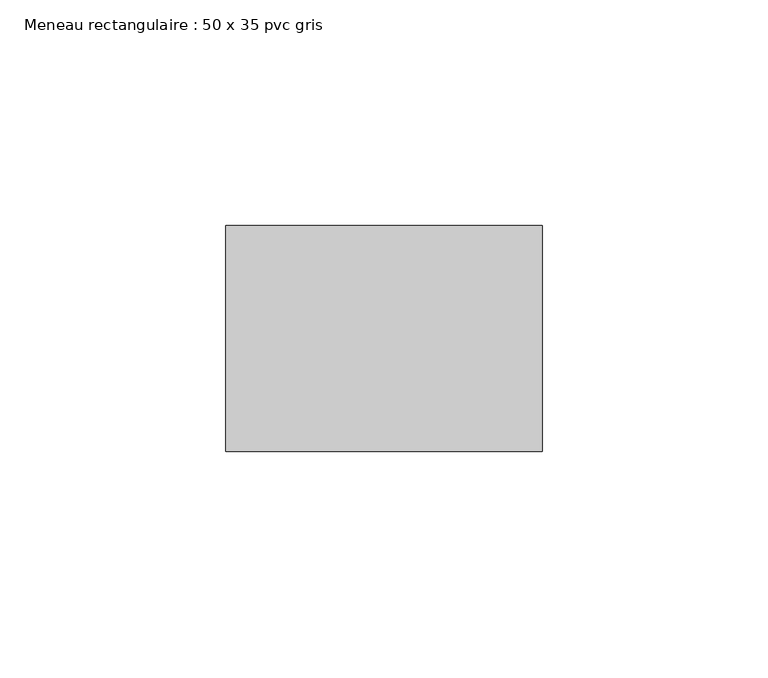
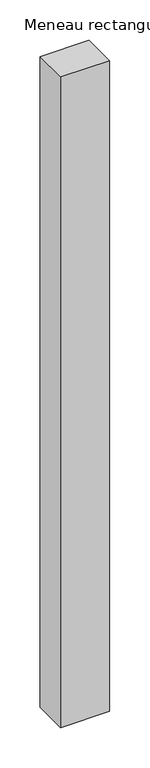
"""IFC4 building model written with IfcOpenShell, lengths in millimetres: member geometry, Meneau rectangulaire : 50 x 35 pvc gris."""

from ifc_helpers import new_model, si_unit, frame, origin, place, context, project, spatial, polyline, outline, extrude, source, transform, mapped, element, save


def meneau_rectangulaire_50_x_35_pvc_gris_ba18eaa9(model_context):
    return source(origin(), model_context, "Body", "SweptSolid", [
        extrude(outline(polyline([(0.0, 0.0), (0.0, -50.0), (-70.0, -50.0), (-70.0, 0.0), (0.0, 0.0)])), frame((0.0, 0.0, -982.6918158), z_axis=(0.0, 0.0, 1.0), x_axis=(1.0, 0.0, 0.0)), (0.0, 0.0, 1.0), 982.6918158),
    ])


if __name__ == "__main__":
    model = new_model("IFC4")
    model_context = context("Model", 3, world=origin())
    ifc_project = project(units=[si_unit("LENGTHUNIT", "METRE", prefix="MILLI")], contexts=[model_context])
    site = spatial("IfcSite", under=ifc_project)
    building = spatial("IfcBuilding", under=site)
    placement = place(None, origin())
    meneau_rectangulaire_50_x_35_pvc_gris_shape = meneau_rectangulaire_50_x_35_pvc_gris_ba18eaa9(model_context)
    element("IfcMember", 1, ObjectType="Meneau rectangulaire : 50 x 35 pvc gris", at=placement, inside=building, context=model_context, shape_type="MappedRepresentation", body=[
        mapped(meneau_rectangulaire_50_x_35_pvc_gris_shape, transform((0.0, 0.0, 0.0), x_axis=(1.0, 0.0, 0.0), y_axis=(0.0, 1.0, 0.0), z_axis=(0.0, 0.0, 1.0))),
    ])
    save(model, "model.ifc")
